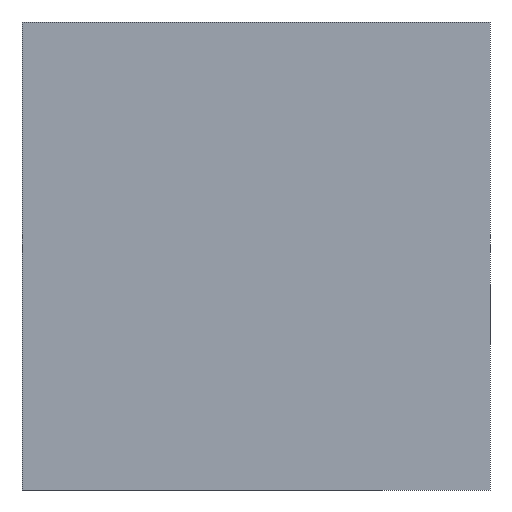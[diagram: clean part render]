
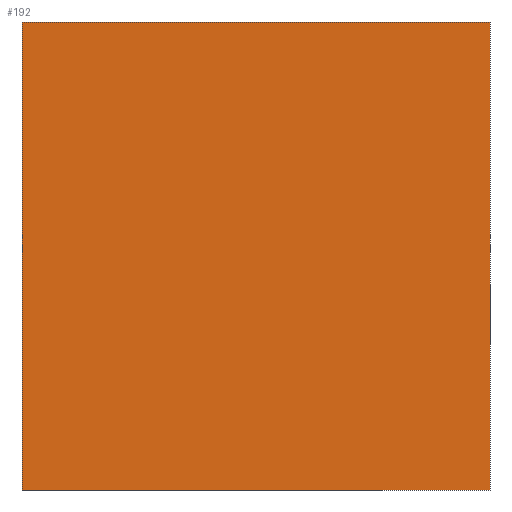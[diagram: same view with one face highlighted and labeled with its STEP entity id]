
A CAD part, left-side view. The second image highlights one B-rep face of the part: STEP entity #192.
In plain terms, the highlighted planar face has unit normal (-1, 0, 0).
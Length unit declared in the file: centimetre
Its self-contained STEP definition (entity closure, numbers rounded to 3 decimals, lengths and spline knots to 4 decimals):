
#9 = LINE ( 'NONE', #232, #183 ) ;
#25 = DIRECTION ( 'NONE',  ( 0., -1., 0. ) ) ;
#31 = EDGE_CURVE ( 'NONE', #292, #143, #9, .T. ) ;
#53 = EDGE_CURVE ( 'NONE', #277, #469, #572, .T. ) ;
#63 = CARTESIAN_POINT ( 'NONE',  ( 0., 1000., 0. ) ) ;
#118 = DIRECTION ( 'NONE',  ( 0., 0., -1. ) ) ;
#143 = VERTEX_POINT ( 'NONE', #374 ) ;
#162 = CARTESIAN_POINT ( 'NONE',  ( 0., 1000., 1000. ) ) ;
#183 = VECTOR ( 'NONE', #632, 100. ) ;
#192 = ADVANCED_FACE ( 'NONE', ( #710 ), #553, .F. ) ;
#195 = DIRECTION ( 'NONE',  ( 1., 0., 0. ) ) ;
#214 = CARTESIAN_POINT ( 'NONE',  ( 0., 0., 1000. ) ) ;
#232 = CARTESIAN_POINT ( 'NONE',  ( 0., 1000., 0. ) ) ;
#251 = CARTESIAN_POINT ( 'NONE',  ( 0., 1000., 1000. ) ) ;
#274 = EDGE_CURVE ( 'NONE', #469, #143, #502, .T. ) ;
#277 = VERTEX_POINT ( 'NONE', #162 ) ;
#292 = VERTEX_POINT ( 'NONE', #63 ) ;
#374 = CARTESIAN_POINT ( 'NONE',  ( 0., 0., 0. ) ) ;
#382 = VECTOR ( 'NONE', #664, 100. ) ;
#388 = VECTOR ( 'NONE', #489, 100. ) ;
#402 = EDGE_CURVE ( 'NONE', #277, #292, #432, .T. ) ;
#432 = LINE ( 'NONE', #251, #388 ) ;
#469 = VERTEX_POINT ( 'NONE', #624 ) ;
#481 = ORIENTED_EDGE ( 'NONE', *, *, #53, .F. ) ;
#489 = DIRECTION ( 'NONE',  ( 0., 0., -1. ) ) ;
#502 = LINE ( 'NONE', #214, #382 ) ;
#522 = CARTESIAN_POINT ( 'NONE',  ( 0., 1000., 1000. ) ) ;
#553 = PLANE ( 'NONE',  #640 ) ;
#572 = LINE ( 'NONE', #522, #580 ) ;
#578 = ORIENTED_EDGE ( 'NONE', *, *, #31, .T. ) ;
#580 = VECTOR ( 'NONE', #25, 100. ) ;
#613 = ORIENTED_EDGE ( 'NONE', *, *, #274, .F. ) ;
#624 = CARTESIAN_POINT ( 'NONE',  ( 0., 0., 1000. ) ) ;
#632 = DIRECTION ( 'NONE',  ( 0., -1., 0. ) ) ;
#640 = AXIS2_PLACEMENT_3D ( 'NONE', #705, #195, #118 ) ;
#648 = EDGE_LOOP ( 'NONE', ( #578, #613, #481, #690 ) ) ;
#664 = DIRECTION ( 'NONE',  ( 0., 0., -1. ) ) ;
#690 = ORIENTED_EDGE ( 'NONE', *, *, #402, .T. ) ;
#705 = CARTESIAN_POINT ( 'NONE',  ( 0., 1000., 1000. ) ) ;
#710 = FACE_OUTER_BOUND ( 'NONE', #648, .T. ) ;
